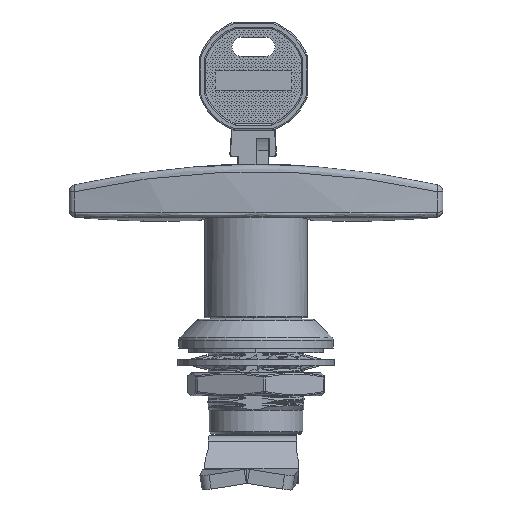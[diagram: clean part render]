
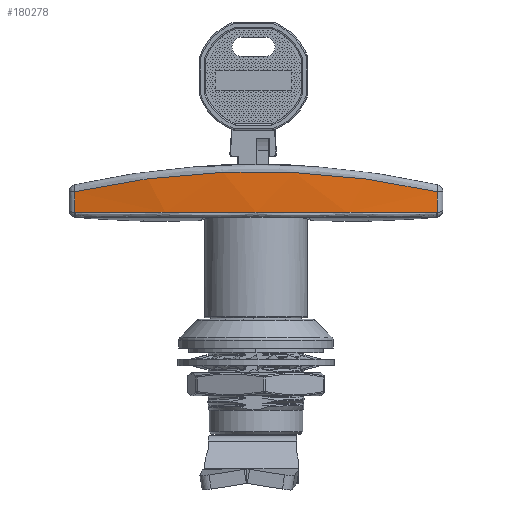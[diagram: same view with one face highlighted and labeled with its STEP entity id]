
A CAD part, front view. The second image highlights one B-rep face of the part: STEP entity #180278.
In plain terms, the highlighted cylindrical face has radius 171.25 mm (diameter 342.5 mm), a partial arc.
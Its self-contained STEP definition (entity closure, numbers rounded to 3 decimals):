
#1796 = FACE_OUTER_BOUND ( 'NONE', #168106, .T. ) ;
#4705 = CARTESIAN_POINT ( 'NONE',  ( 37.758, 72.714, 27.2 ) ) ;
#5367 = CARTESIAN_POINT ( 'NONE',  ( -3.194, 68.5, 35.7 ) ) ;
#6179 = VECTOR ( 'NONE', #102036, 1000. ) ;
#6397 = CARTESIAN_POINT ( 'NONE',  ( -19.048, 69.563, 34.647 ) ) ;
#7458 = CARTESIAN_POINT ( 'NONE',  ( 20.515, 69.732, 34.478 ) ) ;
#10430 = ORIENTED_EDGE ( 'NONE', *, *, #169427, .T. ) ;
#20649 = CARTESIAN_POINT ( 'NONE',  ( -37.795, 72.723, 27.205 ) ) ;
#21017 = CARTESIAN_POINT ( 'NONE',  ( 0., 239.75, 6000035.87 ) ) ;
#22221 = LINE ( 'NONE', #152678, #111086 ) ;
#24558 = CARTESIAN_POINT ( 'NONE',  ( 19.245, 69.585, 34.625 ) ) ;
#33490 = CARTESIAN_POINT ( 'NONE',  ( -37.831, 72.731, 27.212 ) ) ;
#34961 = CARTESIAN_POINT ( 'NONE',  ( 37.831, 72.731, 31.506 ) ) ;
#35339 = CARTESIAN_POINT ( 'NONE',  ( 34.74, 72.031, 32.2 ) ) ;
#40590 = CARTESIAN_POINT ( 'NONE',  ( -17.754, 69.422, 34.786 ) ) ;
#44670 = VERTEX_POINT ( 'NONE', #190130 ) ;
#45090 = VERTEX_POINT ( 'NONE', #134380 ) ;
#46475 = ORIENTED_EDGE ( 'NONE', *, *, #161101, .T. ) ;
#46603 = VERTEX_POINT ( 'NONE', #34961 ) ;
#48195 = CARTESIAN_POINT ( 'NONE',  ( 31.634, 71.417, 32.808 ) ) ;
#53739 = CARTESIAN_POINT ( 'NONE',  ( -37.733, 72.709, 27.2 ) ) ;
#55334 = DIRECTION ( 'NONE',  ( 0., 0., -1. ) ) ;
#55580 = CARTESIAN_POINT ( 'NONE',  ( 12.784, 68.858, 35.345 ) ) ;
#68042 = DIRECTION ( 'NONE',  ( 0., 0., -1. ) ) ;
#68060 = EDGE_CURVE ( 'NONE', #119633, #177295, #202642, .T. ) ;
#68068 = ORIENTED_EDGE ( 'NONE', *, *, #194553, .F. ) ;
#69507 = CARTESIAN_POINT ( 'NONE',  ( -6.391, 68.589, 35.611 ) ) ;
#70490 = CARTESIAN_POINT ( 'NONE',  ( 37.72, 72.706, 27.2 ) ) ;
#77292 = ORIENTED_EDGE ( 'NONE', *, *, #111918, .T. ) ;
#77334 = EDGE_CURVE ( 'NONE', #177295, #174608, #178145, .T. ) ;
#79506 = AXIS2_PLACEMENT_3D ( 'NONE', #21017, #68042, #116214 ) ;
#84075 = ORIENTED_EDGE ( 'NONE', *, *, #77334, .F. ) ;
#84464 = B_SPLINE_CURVE_WITH_KNOTS ( 'NONE', 3,
 ( #148733, #35339, #48195, #100513, #165818, #113434, #178722, #7458, #153988, #204235, #167943, #24558, #55580, #183981, #5367, #69507, #119796, #121875, #170034, #200043, #40590, #103694, #89725, #105812, #6397, #152916, #134791, #188194 ),
 .UNSPECIFIED., .F., .F.,
 ( 4, 2, 2, 1, 1, 1, 2, 2, 2, 2, 2, 1, 1, 1, 2, 2, 4 ),
 ( 0., 0.125, 0.188, 0.219, 0.234, 0.242, 0.246, 0.25, 0.5, 0.625, 0.688, 0.719, 0.734, 0.742, 0.746, 0.75, 1. ),
 .UNSPECIFIED. ) ;
#89725 = CARTESIAN_POINT ( 'NONE',  ( -18.748, 69.529, 34.68 ) ) ;
#100513 = CARTESIAN_POINT ( 'NONE',  ( 26.96, 70.628, 33.59 ) ) ;
#102036 = DIRECTION ( 'NONE',  ( 0., 0., 1. ) ) ;
#103694 = CARTESIAN_POINT ( 'NONE',  ( -18.45, 69.497, 34.712 ) ) ;
#105812 = CARTESIAN_POINT ( 'NONE',  ( -18.947, 69.551, 34.658 ) ) ;
#111086 = VECTOR ( 'NONE', #55334, 1000. ) ;
#111918 = EDGE_CURVE ( 'NONE', #46603, #44670, #84464, .T. ) ;
#113434 = CARTESIAN_POINT ( 'NONE',  ( 23.056, 70.057, 34.156 ) ) ;
#116214 = DIRECTION ( 'NONE',  ( -1., 0., 0. ) ) ;
#119633 = VERTEX_POINT ( 'NONE', #70490 ) ;
#119796 = CARTESIAN_POINT ( 'NONE',  ( -11.18, 68.858, 35.345 ) ) ;
#121875 = CARTESIAN_POINT ( 'NONE',  ( -12.775, 68.97, 35.234 ) ) ;
#126807 = DIRECTION ( 'NONE',  ( 0., 0., -1. ) ) ;
#134380 = CARTESIAN_POINT ( 'NONE',  ( 37.831, 72.731, 27.212 ) ) ;
#134791 = CARTESIAN_POINT ( 'NONE',  ( -31.648, 71.33, 32.894 ) ) ;
#148733 = CARTESIAN_POINT ( 'NONE',  ( 37.831, 72.731, 31.506 ) ) ;
#149004 = CARTESIAN_POINT ( 'NONE',  ( -37.72, 72.706, 27.2 ) ) ;
#150058 = CARTESIAN_POINT ( 'NONE',  ( -37.758, 72.714, 27.201 ) ) ;
#152678 = CARTESIAN_POINT ( 'NONE',  ( -37.831, 72.731, 6000035.87 ) ) ;
#152916 = CARTESIAN_POINT ( 'NONE',  ( -25.407, 70.278, 33.938 ) ) ;
#153947 = ORIENTED_EDGE ( 'NONE', *, *, #68060, .F. ) ;
#153988 = CARTESIAN_POINT ( 'NONE',  ( 19.831, 69.652, 34.558 ) ) ;
#154745 = CARTESIAN_POINT ( 'NONE',  ( -37.72, 72.706, 27.2 ) ) ;
#158909 = CARTESIAN_POINT ( 'NONE',  ( 0., 239.75, 27.2 ) ) ;
#161101 = EDGE_CURVE ( 'NONE', #44670, #174608, #22221, .T. ) ;
#161552 = AXIS2_PLACEMENT_3D ( 'NONE', #158909, #126807, #207060 ) ;
#163292 = CYLINDRICAL_SURFACE ( 'NONE', #79506, 171.25 ) ;
#165818 = CARTESIAN_POINT ( 'NONE',  ( 25.399, 70.387, 33.83 ) ) ;
#167943 = CARTESIAN_POINT ( 'NONE',  ( 19.342, 69.596, 34.614 ) ) ;
#168106 = EDGE_LOOP ( 'NONE', ( #153947, #68068, #10430, #77292, #46475, #84075 ) ) ;
#169427 = EDGE_CURVE ( 'NONE', #45090, #46603, #199459, .T. ) ;
#170034 = CARTESIAN_POINT ( 'NONE',  ( -15.166, 69.171, 35.035 ) ) ;
#174608 = VERTEX_POINT ( 'NONE', #199394 ) ;
#177295 = VERTEX_POINT ( 'NONE', #154745 ) ;
#178145 =( BOUNDED_CURVE ( )  B_SPLINE_CURVE ( 3, ( #149004, #53739, #150058, #20649, #199266, #33490 ),
 .UNSPECIFIED., .F., .F. ) 
 B_SPLINE_CURVE_WITH_KNOTS ( ( 4, 1, 1, 4 ),
 ( 0., 0.333, 0.667, 1. ),
 .UNSPECIFIED. ) 
 CURVE ( )  GEOMETRIC_REPRESENTATION_ITEM ( )  RATIONAL_B_SPLINE_CURVE ( ( 1.172, 1.172, 1.172, 1.172, 1.172, 1.172 ) ) 
 REPRESENTATION_ITEM ( '' )  );
#178722 = CARTESIAN_POINT ( 'NONE',  ( 21.884, 69.901, 34.311 ) ) ;
#180278 = ADVANCED_FACE ( 'NONE', ( #1796 ), #163292, .T. ) ;
#183299 = CARTESIAN_POINT ( 'NONE',  ( 37.795, 72.723, 27.205 ) ) ;
#183385 = CARTESIAN_POINT ( 'NONE',  ( 37.831, 72.731, 6000035.87 ) ) ;
#183981 = CARTESIAN_POINT ( 'NONE',  ( 6.389, 68.5, 35.7 ) ) ;
#184356 = CARTESIAN_POINT ( 'NONE',  ( 37.72, 72.706, 27.2 ) ) ;
#188194 = CARTESIAN_POINT ( 'NONE',  ( -37.831, 72.731, 31.506 ) ) ;
#190130 = CARTESIAN_POINT ( 'NONE',  ( -37.831, 72.731, 31.506 ) ) ;
#194553 = EDGE_CURVE ( 'NONE', #45090, #119633, #200285, .T. ) ;
#199266 = CARTESIAN_POINT ( 'NONE',  ( -37.819, 72.728, 27.21 ) ) ;
#199370 = CARTESIAN_POINT ( 'NONE',  ( 37.831, 72.731, 27.212 ) ) ;
#199394 = CARTESIAN_POINT ( 'NONE',  ( -37.831, 72.731, 27.212 ) ) ;
#199459 = LINE ( 'NONE', #183385, #6179 ) ;
#200043 = CARTESIAN_POINT ( 'NONE',  ( -16.361, 69.28, 34.927 ) ) ;
#200285 = B_SPLINE_CURVE_WITH_KNOTS ( 'NONE', 3,
 ( #199370, #183299, #4705, #184356 ),
 .UNSPECIFIED., .F., .F.,
 ( 4, 4 ),
 ( 0., 1. ),
 .UNSPECIFIED. ) ;
#202642 = CIRCLE ( 'NONE', #161552, 171.25 ) ;
#204235 = CARTESIAN_POINT ( 'NONE',  ( 19.537, 69.618, 34.592 ) ) ;
#207060 = DIRECTION ( 'NONE',  ( -1., 0., 0. ) ) ;
